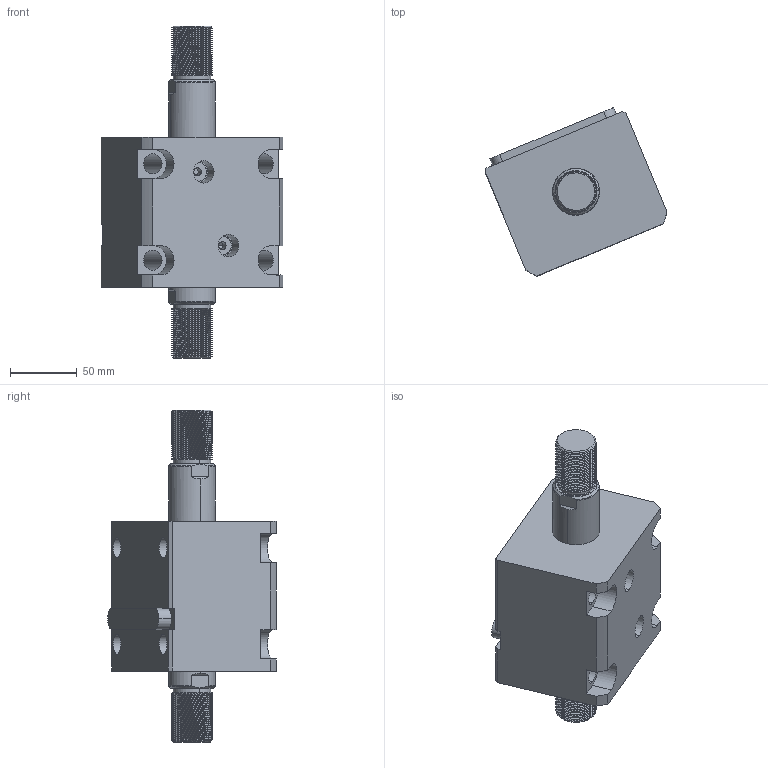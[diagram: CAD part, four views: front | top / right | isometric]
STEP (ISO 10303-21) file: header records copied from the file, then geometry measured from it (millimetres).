
FILE_DESCRIPTION (( 'STEP AP214' ), '1' );
FILE_NAME ('chtb-lw63x30w_asm.STEP', '2018-05-18T08:13:41', ( 'Windows' ), ( 'Microsoft' ), 'SwSTEP 2.0', 'SolidWorks 2015', '' );
FILE_SCHEMA (( 'AUTOMOTIVE_DESIGN' ));
Length unit declared in the file: millimetre
Products named in the file (5): CHTB-SW63X30WHSG; CHTB-LW63X30NBT; CHTB-LA63PJ; CHTB-63QG; chtb-lw63x30w_asm
Assembly tree (4 placements, depth 2):
  chtb-lw63x30w_asm
    CHTB-63QG
    CHTB-LA63PJ
    CHTB-LW63X30NBT
    CHTB-SW63X30WHSG
Bounding box: 135.77 x 126.06 x 248 mm (x, y, z)
Volume: 1098697.7 mm3; surface area: 164640.4 mm2
Topology: 4 solids, 4 shells, 306 faces, 883 edges, 597 vertices
Faces by surface type: cylinder 204, plane 58, bspline 16, cone 16, torus 12
Entity records: 27807 total; most frequent: CARTESIAN_POINT 20497, ORIENTED_EDGE 1758, DIRECTION 1223, EDGE_CURVE 879, VERTEX_POINT 597, AXIS2_PLACEMENT_3D 457, EDGE_LOOP 336, LINE 309
